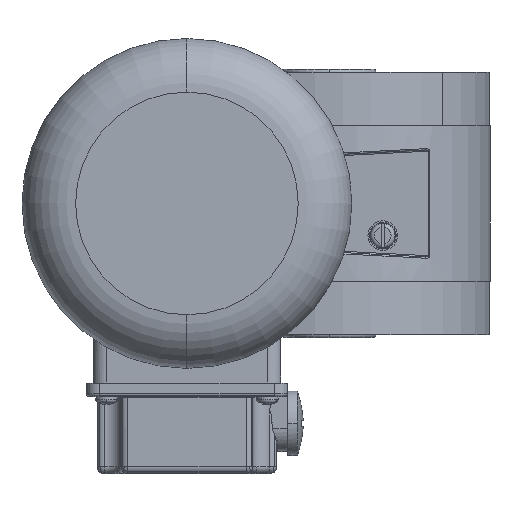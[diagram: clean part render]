
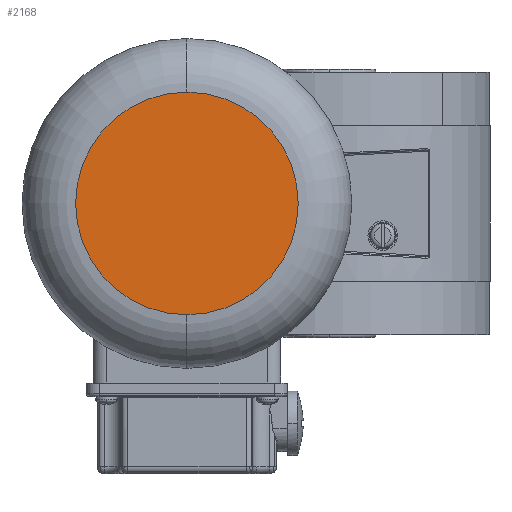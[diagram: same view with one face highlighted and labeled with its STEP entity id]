
A CAD part, left-side view. The second image highlights one B-rep face of the part: STEP entity #2168.
In plain terms, the highlighted planar face has unit normal (-1, 0, 0).
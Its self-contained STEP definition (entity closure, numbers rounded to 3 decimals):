
#241 = DIRECTION ( 'NONE',  ( -1., 0., 0. ) ) ;
#701 = CIRCLE ( 'NONE', #21456, 41.5 ) ;
#2168 = ADVANCED_FACE ( 'NONE', ( #14308 ), #24597, .F. ) ;
#2449 = EDGE_LOOP ( 'NONE', ( #25931, #12902 ) ) ;
#3039 = CIRCLE ( 'NONE', #3484, 41.5 ) ;
#3484 = AXIS2_PLACEMENT_3D ( 'NONE', #24973, #18877, #23063 ) ;
#6352 = EDGE_CURVE ( 'NONE', #11113, #18762, #701, .T. ) ;
#8037 = AXIS2_PLACEMENT_3D ( 'NONE', #13910, #22445, #24728 ) ;
#8375 = DIRECTION ( 'NONE',  ( 0., 0., -1. ) ) ;
#10326 = CARTESIAN_POINT ( 'NONE',  ( 0., 0., -41.5 ) ) ;
#11113 = VERTEX_POINT ( 'NONE', #14919 ) ;
#12902 = ORIENTED_EDGE ( 'NONE', *, *, #6352, .T. ) ;
#13910 = CARTESIAN_POINT ( 'NONE',  ( 0., 0., 0. ) ) ;
#14308 = FACE_OUTER_BOUND ( 'NONE', #2449, .T. ) ;
#14919 = CARTESIAN_POINT ( 'NONE',  ( 0., 0., 41.5 ) ) ;
#16249 = CARTESIAN_POINT ( 'NONE',  ( 0., 0., 0. ) ) ;
#18762 = VERTEX_POINT ( 'NONE', #10326 ) ;
#18877 = DIRECTION ( 'NONE',  ( -1., 0., 0. ) ) ;
#20670 = EDGE_CURVE ( 'NONE', #18762, #11113, #3039, .T. ) ;
#21456 = AXIS2_PLACEMENT_3D ( 'NONE', #16249, #241, #8375 ) ;
#22445 = DIRECTION ( 'NONE',  ( 1., 0., 0. ) ) ;
#23063 = DIRECTION ( 'NONE',  ( 0., 0., -1. ) ) ;
#24597 = PLANE ( 'NONE',  #8037 ) ;
#24728 = DIRECTION ( 'NONE',  ( 0., 0., -1. ) ) ;
#24973 = CARTESIAN_POINT ( 'NONE',  ( 0., 0., 0. ) ) ;
#25931 = ORIENTED_EDGE ( 'NONE', *, *, #20670, .T. ) ;
